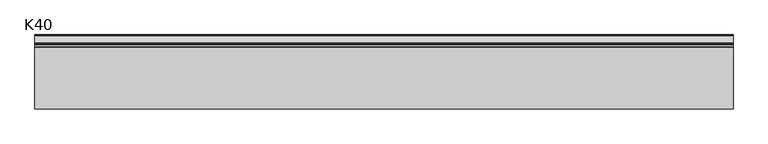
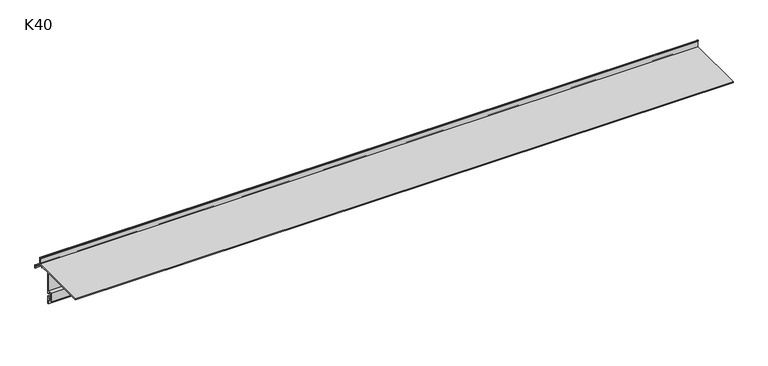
"""IFC4 building model written with IfcOpenShell, lengths in millimetres: proxy geometry, K40 Profil okapowy prosty z rynną : K40."""

from ifc_helpers import new_model, si_unit, point, frame, frame_2d, origin, place, context, project, spatial, polyline, circle_curve, trimmed, segment, composite_curve, outline, extrude, source, transform, mapped, element, save


def k40_bf73bbdf(model_context):
    return source(origin(), model_context, "Body", "SweptSolid", [
        extrude(outline(composite_curve([segment(polyline([(-24.790973, -57.0495867), (-27.3231899, -57.0495867), (-27.3231899, -52.7987457), (-33.8031079, -52.7987457), (-33.8031079, -66.7941249), (-27.3339394, -66.7941249), (-27.3339394, -62.5508482), (-24.8312026, -62.5508482), (-24.8312026, -78.1012637), (-26.5440554, -78.1012637), (-26.5440554, -68.292524), (-35.5016753, -68.292524), (-35.5016753, -51.2995887), (-26.3208839, -51.2995887), (-26.3208839, -15.0820716), (-116.4889281, -15.0820716), (-116.4889281, -13.3289895), (0.9115875, -13.3289895), (0.9757443, -2.7685501)]), True, "CONTINUOUS"), segment(trimmed(circle_curve(frame_2d((-0.0120135, -2.7877506)), 0.9879444), [point((0.9757443, -2.7685501))], [point((-0.0109399, -1.7998068))], True, "CARTESIAN"), True, "CONTINUOUS"), segment(polyline([(-0.0109399, -1.7998068), (0.0, 0.0)]), True, "CONTINUOUS"), segment(trimmed(circle_curve(frame_2d((-0.0170191, -2.7999483)), 2.8), [point((0.0, 0.0))], [point((2.7829292, -2.8169668))], False, "CARTESIAN"), True, "CONTINUOUS"), segment(polyline([(2.7829292, -2.8169668), (2.7242139, -12.4769853)]), True, "CONTINUOUS"), segment(trimmed(circle_curve(frame_2d((4.1173519, -12.3385419)), 1.4), [point((2.7242139, -12.4769853))], [point((3.1518737, -13.3523721))], True, "CARTESIAN"), True, "CONTINUOUS"), segment(polyline([(3.1518737, -13.3523721), (17.0511573, -24.2602721)]), True, "CONTINUOUS"), segment(trimmed(circle_curve(frame_2d((15.2315969, -26.6454765)), 3.0), [point((17.0511573, -24.2602721))], [point((18.2315415, -26.6637113))], False, "CARTESIAN"), True, "CONTINUOUS"), segment(polyline([(18.2315415, -26.6637113), (18.2085449, -30.4470529)]), True, "CONTINUOUS"), segment(trimmed(circle_curve(frame_2d((17.3591685, -30.3418882)), 0.8558621), [point((18.2085449, -30.4470529))], [point((16.5085763, -30.4367198))], False, "CARTESIAN"), True, "CONTINUOUS"), segment(polyline([(16.5085763, -30.4367198), (16.5294511, -27.0024549)]), True, "CONTINUOUS"), segment(trimmed(circle_curve(frame_2d((14.529488, -26.9902983)), 2.0), [point((16.5294511, -27.0024549))], [point((15.7425283, -25.4001621))], True, "CARTESIAN"), True, "CONTINUOUS"), segment(polyline([(15.7425283, -25.4001621), (2.4887219, -15.0820716), (-4.1008046, -15.0820716), (-4.0927202, -17.1065163), (-5.0920266, -17.1021433), (-5.0997493, -15.0820716), (-24.790973, -15.0820716), (-24.790973, -57.0495867)]), True, "CONTINUOUS")], self_intersect=False)), frame((0.0, 0.0, 0.0), z_axis=(1.0, 0.0, 0.0), x_axis=(0.0, 1.0, 0.0)), (0.0, 0.0, 1.0), 1265.0),
    ])


if __name__ == "__main__":
    model = new_model("IFC4")
    model_context = context("Model", 3, world=origin())
    ifc_project = project(units=[si_unit("LENGTHUNIT", "METRE", prefix="MILLI")], contexts=[model_context])
    site = spatial("IfcSite", under=ifc_project)
    building = spatial("IfcBuilding", under=site)
    placement = place(None, origin())
    k40_shape = k40_bf73bbdf(model_context)
    element("IfcBuildingElementProxy", 1, Name="K40 Profil okapowy prosty z rynną : K40", ObjectType="K40 Profil okapowy prosty z rynną : K40", at=placement, inside=building, context=model_context, shape_type="MappedRepresentation", body=[
        mapped(k40_shape, transform((0.0, 0.0, 0.0), x_axis=(1.0, 0.0, 0.0), y_axis=(0.0, 1.0, 0.0), z_axis=(0.0, 0.0, 1.0))),
    ])
    save(model, "model.ifc")
